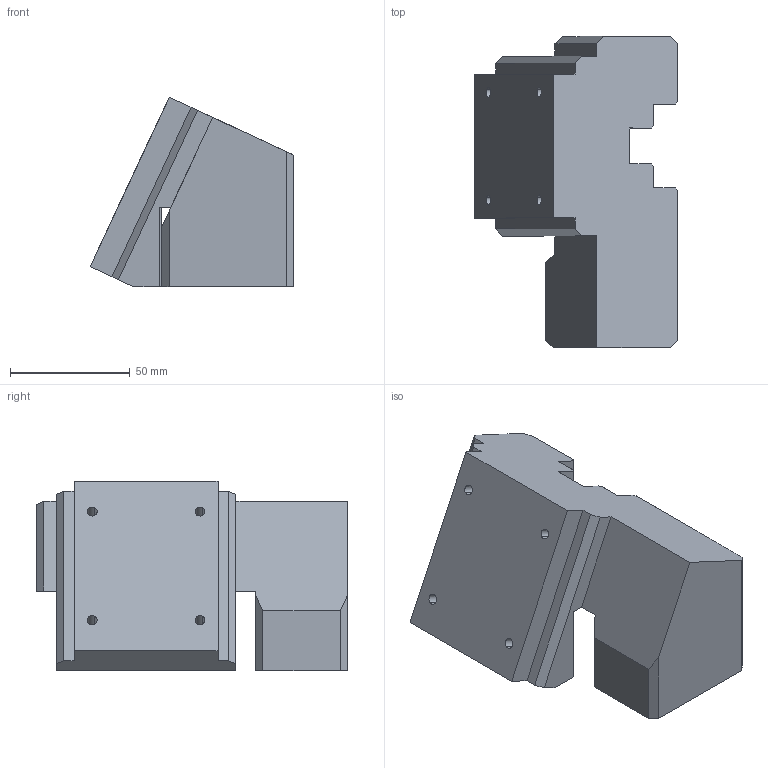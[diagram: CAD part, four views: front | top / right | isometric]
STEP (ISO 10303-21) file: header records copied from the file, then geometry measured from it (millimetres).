
FILE_DESCRIPTION(('CATIA V5 STEP Exchange'),'2;1');
FILE_NAME('D:\姚明阳\1、工装图纸\AGZ122\AGZ122.00_V2\AGZ122.04_V2.stp','2024-12-11T11:35:34+00:00',('none'),('none'),'CATIA Version 5 Release 20 GA (IN-10)','CATIA V5 STEP AP203','none');
FILE_SCHEMA(('CONFIG_CONTROL_DESIGN'));
Length unit declared in the file: millimetre
Products named in the file (1): AGZ122.04_V2
Bounding box: 84.88 x 129.7 x 79.14 mm (x, y, z)
Volume: 284552 mm3; surface area: 42923.7 mm2
Topology: 1 solids, 1 shells, 117 faces, 318 edges, 193 vertices
Faces by surface type: plane 66, cylinder 24, cone 22, torus 5
Entity records: 3324 total; most frequent: CARTESIAN_POINT 668, ORIENTED_EDGE 596, DIRECTION 426, EDGE_CURVE 298, VECTOR 220, LINE 220, VERTEX_POINT 193, AXIS2_PLACEMENT_3D 130
